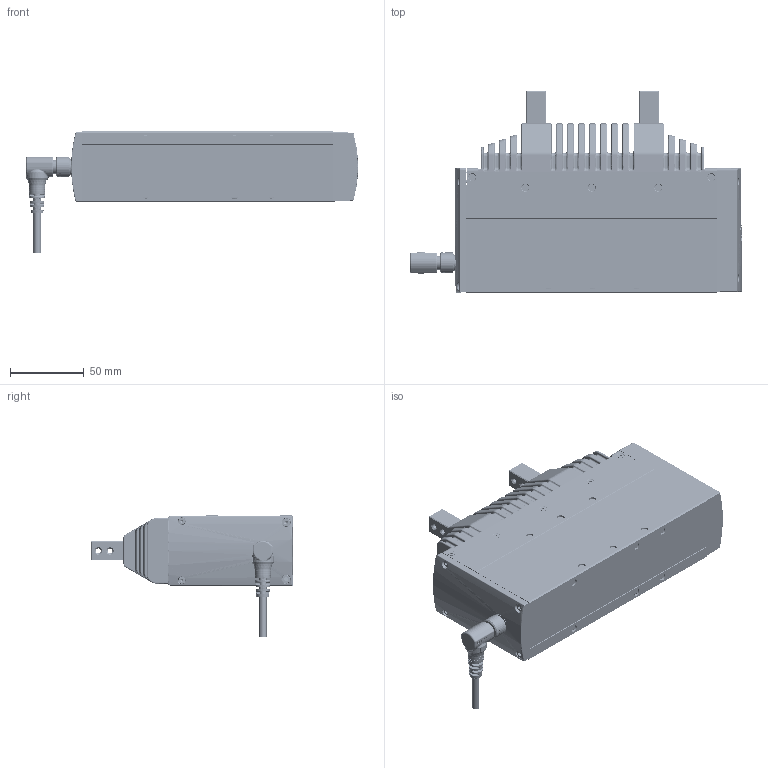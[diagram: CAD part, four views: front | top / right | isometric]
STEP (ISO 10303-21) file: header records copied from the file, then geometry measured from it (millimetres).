
FILE_DESCRIPTION(/* description */ ('STEP AP203'),/* implementation_level */ '2;1');
FILE_NAME(/* name */ 'D:\2025.02.25 帶電匯整給泊舟\3. CHS2系列\4.3D組立\2C-S68\CHS2C-S68-WR.stp',/* time_stamp */ '2025-02-25T18:34:30+08:00',/* author */ ('T10033'),/* organization */ (''),/* preprocessor_version */ 'ST-DEVELOPER v18.1',/* originating_system */ 'Autodesk Inventor 2020',/* authorisation */ '');
FILE_SCHEMA (('CONFIG_CONTROL_DESIGN'));
Products named in the file (7): CHS2C-S68; M12 -14PIN  板端-第一種規格; 2T6354T34W; 12004-0000000_¹w³]_¾÷¾¹¥[
¤u_; ª¿½¦®M-S68-1.0; 63T6ER_Shrinkwrap_1; M12-14PIN 線端90度接頭-05中繼線
Assembly tree (7 placements, depth 3):
  CHS2C-S68
    M12 -14PIN  板端-第一種規格
    2T6354T34W
      12004-0000000_¹w³]_¾÷¾¹¥[
¤u_  x2
      ª¿½¦®M-S68-1.0
    63T6ER_Shrinkwrap_1
    M12-14PIN 線端90度接頭-05中繼線
Bounding box: 224.77 x 137 x 82 mm (x, y, z)
Volume: 747663.9 mm3; surface area: 160148.7 mm2
Topology: 22 solids, 27 shells, 4935 faces, 13057 edges, 8109 vertices
Faces by surface type: plane 1641, cylinder 1419, bspline 831, cone 571, torus 393, sphere 80
Full cylindrical faces by diameter (mm): 0.6 x14, 0.65 x14, 1 x14, 2.5 x146, 3 x10, 3.3 x4, 3.5 x8, 4.5 x6, 4.7 x10, 5 x20, 5.2 x8, 5.5 x2, 8 x1, 8.9 x1, 9.5 x2, 9.6 x1, 10.5 x2, 10.9 x1, 11 x2, 11.2 x1, 11.25 x1, 12 x1, 13 x1, 13.8 x1, 14 x2, 14.4 x1, 17.482 x1
Entity records: 216013 total; most frequent: CARTESIAN_POINT 96245, ORIENTED_EDGE 25076, DIRECTION 24794, EDGE_CURVE 12556, AXIS2_PLACEMENT_3D 9848, VERTEX_POINT 7940, CIRCLE 5393, EDGE_LOOP 5176
